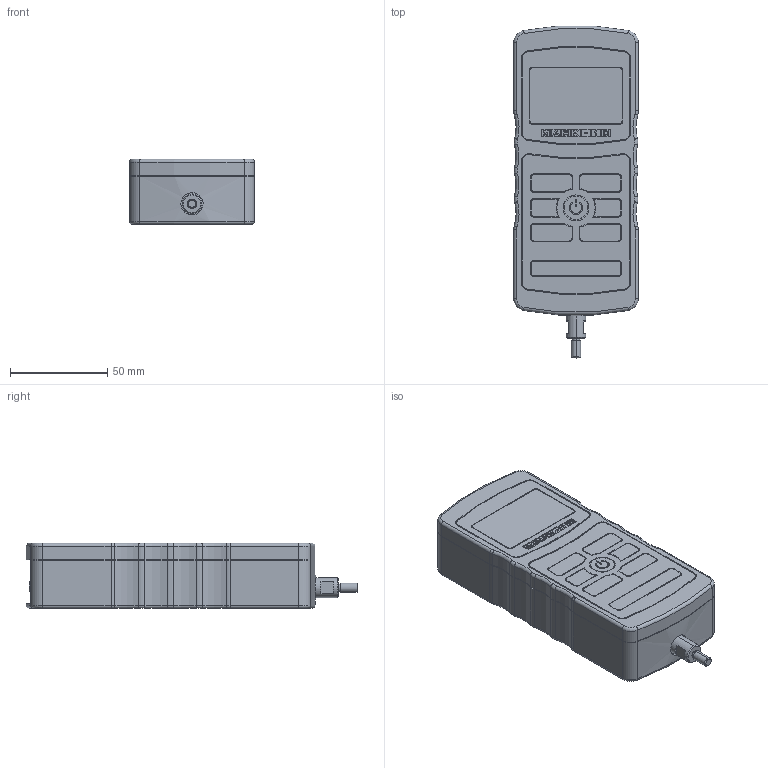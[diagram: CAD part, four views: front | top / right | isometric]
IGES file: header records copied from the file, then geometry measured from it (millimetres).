
Global section: file name: No Iges File Name specified; native system: Autodesk Inventor 2010; preprocessor: AutoDesk Inventor Iges Exporter R2010; author: mlampen; date: 20170620.171440; units: inch
Bounding box: 64.26 x 170.93 x 33.84 mm (x, y, z)
Volume: 305905.2 mm3; surface area: 39564.8 mm2
Topology: 4 solids, 18 shells, 828 faces, 2036 edges, 1314 vertices
Faces by surface type: plane 362, revolution 182, cylinder 149, bspline 75, torus 52, cone 4, sphere 4
